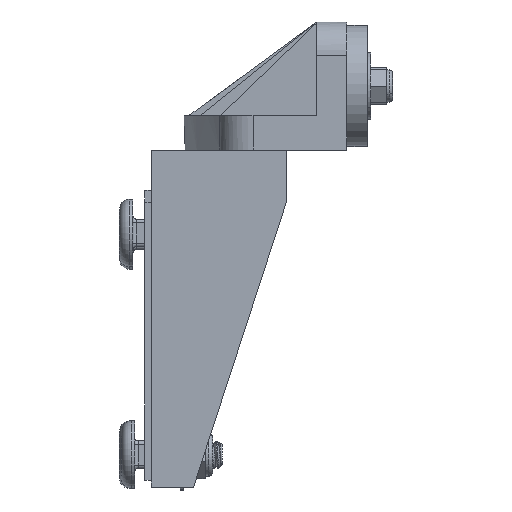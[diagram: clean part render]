
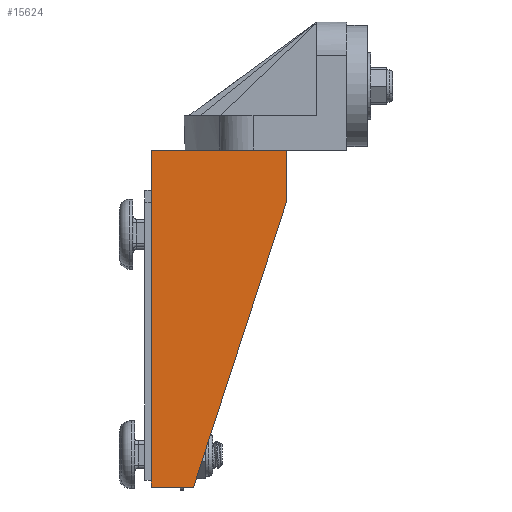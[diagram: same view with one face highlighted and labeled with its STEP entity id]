
A CAD part, left-side view. The second image highlights one B-rep face of the part: STEP entity #15624.
In plain terms, the highlighted planar face has unit normal (-1, 0, 0).
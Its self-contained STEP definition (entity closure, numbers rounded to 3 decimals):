
#1088 = VERTEX_POINT ( 'NONE', #9748 ) ;
#1163 = ORIENTED_EDGE ( 'NONE', *, *, #6131, .T. ) ;
#1520 = EDGE_LOOP ( 'NONE', ( #2448, #12728, #12808, #1163, #4538 ) ) ;
#1633 = DIRECTION ( 'NONE',  ( -1., 0., 0. ) ) ;
#2448 = ORIENTED_EDGE ( 'NONE', *, *, #21933, .T. ) ;
#4082 = VECTOR ( 'NONE', #10520, 1000. ) ;
#4538 = ORIENTED_EDGE ( 'NONE', *, *, #16856, .F. ) ;
#6131 = EDGE_CURVE ( 'NONE', #1088, #17790, #9241, .T. ) ;
#6492 = EDGE_CURVE ( 'NONE', #21947, #1088, #19646, .T. ) ;
#7791 = PLANE ( 'NONE',  #9900 ) ;
#8041 = DIRECTION ( 'NONE',  ( 0., -1., 0. ) ) ;
#8855 = CARTESIAN_POINT ( 'NONE',  ( -870.662, 886.453, 0. ) ) ;
#9241 = LINE ( 'NONE', #20360, #4082 ) ;
#9740 = CARTESIAN_POINT ( 'NONE',  ( -870.662, 836.453, -4.5 ) ) ;
#9748 = CARTESIAN_POINT ( 'NONE',  ( -870.662, 836.453, -40. ) ) ;
#9900 = AXIS2_PLACEMENT_3D ( 'NONE', #9740, #1633, #17522 ) ;
#10182 = VECTOR ( 'NONE', #11847, 1000. ) ;
#10520 = DIRECTION ( 'NONE',  ( 0., 0., 1. ) ) ;
#11847 = DIRECTION ( 'NONE',  ( 0., -0.951, -0.31 ) ) ;
#12013 = CARTESIAN_POINT ( 'NONE',  ( -870.662, 936.453, -12.5 ) ) ;
#12036 = LINE ( 'NONE', #12013, #10182 ) ;
#12705 = LINE ( 'NONE', #8855, #21288 ) ;
#12728 = ORIENTED_EDGE ( 'NONE', *, *, #19990, .T. ) ;
#12808 = ORIENTED_EDGE ( 'NONE', *, *, #6492, .T. ) ;
#13492 = VECTOR ( 'NONE', #25146, 1000. ) ;
#13665 = FACE_OUTER_BOUND ( 'NONE', #1520, .T. ) ;
#13827 = CARTESIAN_POINT ( 'NONE',  ( -870.662, 836.453, -40. ) ) ;
#14433 = VECTOR ( 'NONE', #8041, 1000. ) ;
#15624 = ADVANCED_FACE ( 'NONE', ( #13665 ), #7791, .T. ) ;
#16856 = EDGE_CURVE ( 'NONE', #25203, #17790, #12705, .T. ) ;
#17355 = CARTESIAN_POINT ( 'NONE',  ( -870.662, 936.453, 0. ) ) ;
#17522 = DIRECTION ( 'NONE',  ( 0., 0., 1. ) ) ;
#17790 = VERTEX_POINT ( 'NONE', #21317 ) ;
#18708 = LINE ( 'NONE', #19546, #13492 ) ;
#19194 = CARTESIAN_POINT ( 'NONE',  ( -870.662, 852.053, -40. ) ) ;
#19541 = CARTESIAN_POINT ( 'NONE',  ( -870.662, 936.453, -12.5 ) ) ;
#19546 = CARTESIAN_POINT ( 'NONE',  ( -870.662, 936.453, -4.5 ) ) ;
#19646 = LINE ( 'NONE', #13827, #14433 ) ;
#19792 = VERTEX_POINT ( 'NONE', #19541 ) ;
#19990 = EDGE_CURVE ( 'NONE', #19792, #21947, #12036, .T. ) ;
#20360 = CARTESIAN_POINT ( 'NONE',  ( -870.662, 836.453, -17.551 ) ) ;
#21288 = VECTOR ( 'NONE', #22891, 1000. ) ;
#21317 = CARTESIAN_POINT ( 'NONE',  ( -870.662, 836.453, 0. ) ) ;
#21933 = EDGE_CURVE ( 'NONE', #25203, #19792, #18708, .T. ) ;
#21947 = VERTEX_POINT ( 'NONE', #19194 ) ;
#22891 = DIRECTION ( 'NONE',  ( 0., -1., 0. ) ) ;
#25146 = DIRECTION ( 'NONE',  ( 0., 0., -1. ) ) ;
#25203 = VERTEX_POINT ( 'NONE', #17355 ) ;
